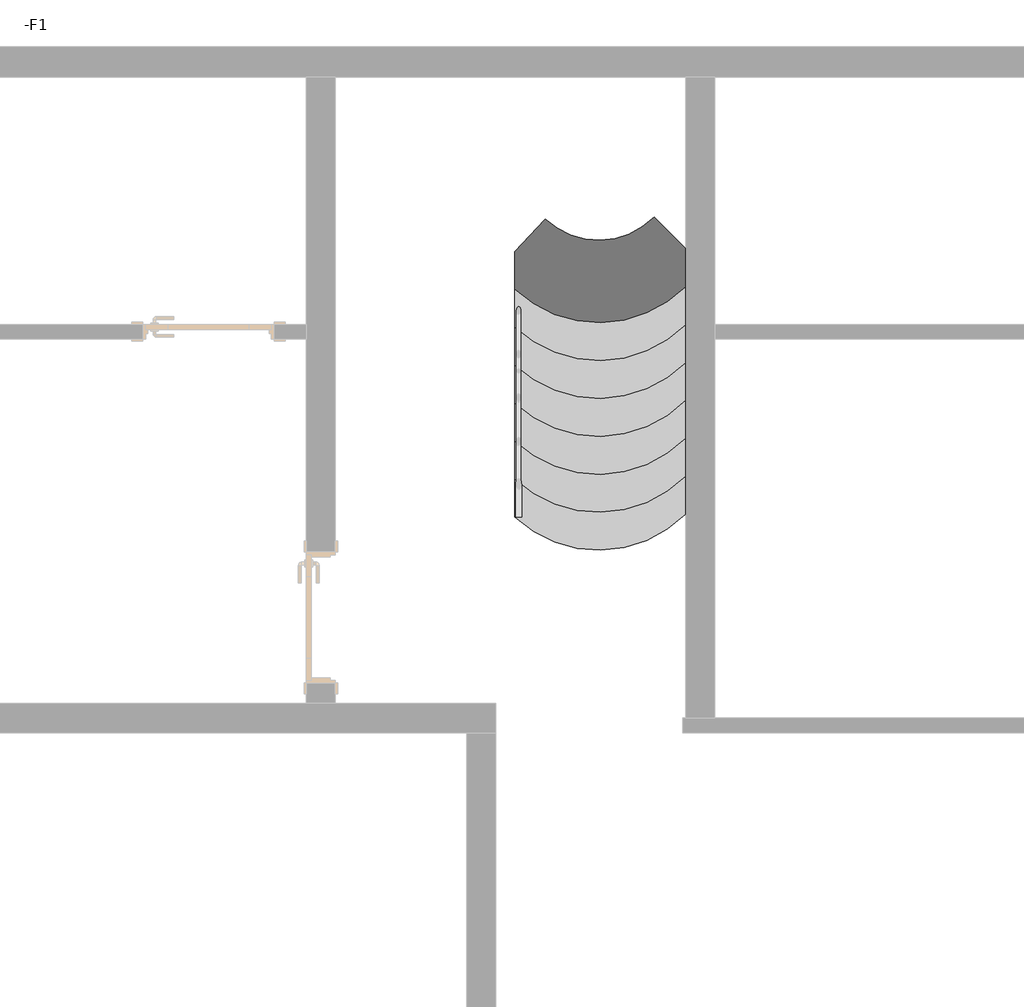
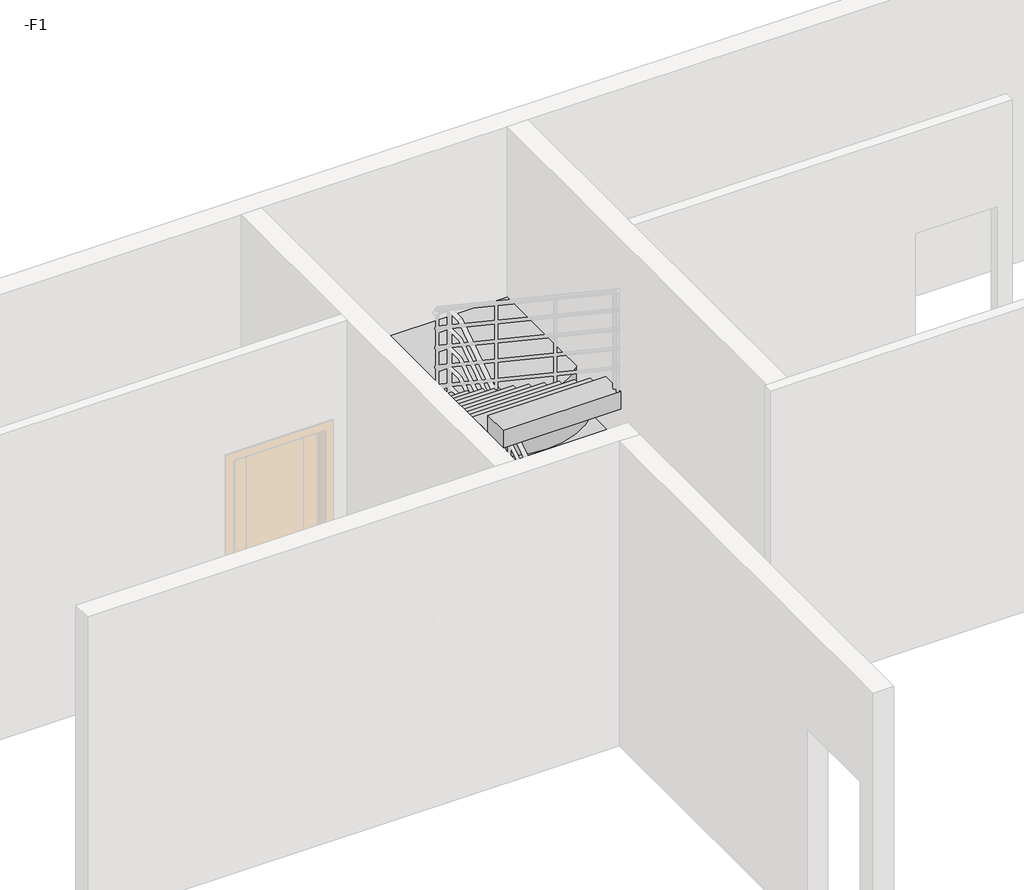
# One storey, part 3 of 3: 1 stair flight.
"""IFC4 building model written with IfcOpenShell, lengths in millimetres."""

from ifc_helpers import new_model, si_unit, frame, origin, place, context, project, spatial, polyline, circle_curve, ellipse_curve, element, save
from ifc_brep_helpers import plane_surface, cylinder_surface, revolved_surface, advanced_brep

model = new_model("IFC4")

# Units and contexts
model_context = context("Model", 3, world=origin())
ifc_project = project(units=[si_unit("LENGTHUNIT", "METRE", prefix="MILLI")], contexts=[model_context])

# Site, building, storey
site = spatial("IfcSite", under=ifc_project)
building = spatial("IfcBuilding", under=site)
storey = spatial("IfcBuildingStorey", under=building, Name="-F1", Elevation=-3300.0)

# Stair flight
placement = place(None, origin())
element("IfcStairFlight", 1, ObjectType="150mm 结构深度", at=placement, inside=storey, context=model_context, shape_type="AdvancedBrep", body=[
    advanced_brep(
    [(-11225.9782681, -2391.0286905, -3126.3157895), (-11225.9782681, -2651.0286905, -3126.3157895), (-10055.9782681, -2631.5689641, -3126.3157895), (-10055.9782681, -2371.5689641, -3126.3157895), (-11225.9782681, -2391.0286905, -3300.0), (-11225.9782681, -2651.0286905, -3300.0), (-10055.9782681, -2631.5689641, -3300.0), (-10055.9782681, -2371.5689641, -3300.0), (-11225.9782681, -2131.0286905, -2952.6315789), (-11225.9782681, -2391.0286905, -2952.6315789), (-10055.9782681, -2371.5689641, -2952.6315789), (-10055.9782681, -2111.5689641, -2952.6315789), (-11225.9782681, -2131.0286905, -3133.0292074), (-11225.9782681, -2380.9789073, -3300.0), (-10055.9782681, -2361.519181, -3300.0), (-10055.9782681, -2111.5689641, -3133.0292074), (-11225.9782681, -1871.0286905, -2778.9473684), (-11225.9782681, -2131.0286905, -2778.9473684), (-10055.9782681, -2111.5689641, -2778.9473684), (-10055.9782681, -1851.5689641, -2778.9473684), (-11225.9782681, -1871.0286905, -2959.3449968), (-10055.9782681, -1851.5689641, -2959.3449968), (-11225.9782681, -1611.0286905, -2605.2631579), (-11225.9782681, -1871.0286905, -2605.2631579), (-10055.9782681, -1851.5689641, -2605.2631579), (-10055.9782681, -1591.5689641, -2605.2631579), (-11225.9782681, -1611.0286905, -2785.6607863), (-10055.9782681, -1591.5689641, -2785.6607863), (-11225.9782681, -1351.0286905, -2431.5789474), (-11225.9782681, -1611.0286905, -2431.5789474), (-10055.9782681, -1591.5689641, -2431.5789474), (-10055.9782681, -1331.5689641, -2431.5789474), (-11225.9782681, -1351.0286905, -2611.9765758), (-10055.9782681, -1331.5689641, -2611.9765758), (-11225.9782681, -1091.0286905, -2257.8947368), (-11225.9782681, -1351.0286905, -2257.8947368), (-10055.9782681, -1331.5689641, -2257.8947368), (-10055.9782681, -1071.5689641, -2257.8947368), (-11225.9782681, -1091.0286905, -2438.2923652), (-10055.9782681, -1071.5689641, -2438.2923652), (-11225.9782681, -831.0286905, -2084.2105263), (-11225.9782681, -1091.0286905, -2084.2105263), (-10055.9782681, -1071.5689641, -2084.2105263), (-10055.9782681, -811.5689641, -2084.2105263), (-11225.9782681, -831.0286905, -2264.6081547), (-10055.9782681, -811.5689641, -2264.6081547), (-11285.9782681, -831.0286905, -1910.5263158), (-11285.9782681, -651.0286905, -1910.5263158), (-11225.9782681, -651.0286905, -1910.5263158), (-11225.9782681, -831.0286905, -1910.5263158), (-10055.9782681, -811.5689641, -1910.5263158), (-10055.9782681, 363.9713095, -1910.5263158), (-12435.9782681, 363.9713095, -1910.5263158), (-12435.9782681, -831.0286905, -1910.5263158), (-11285.9782681, -831.0286905, -2060.5263158), (-11285.9782681, -651.0286905, -2060.5263158), (-11225.9782681, -651.0286905, -2060.5263158), (-11225.9782681, -831.0286905, -2060.5263158), (-10055.9782681, -811.5689641, -2060.5263158), (-10055.9782681, 363.9713095, -2060.5263158), (-12435.9782681, 363.9713095, -2060.5263158), (-12435.9782681, -831.0286905, -2060.5263158), (-11285.9782681, -831.0286905, -1736.8421053), (-12435.9782681, -831.0286905, -1736.8421053), (-12435.9782681, -876.5214946, -1736.8421053), (-12435.9782681, -1091.0286905, -1736.8421053), (-11285.9782681, -1091.0286905, -1736.8421053), (-11285.9782681, -876.5214946, -1736.8421053), (-11285.9782681, -1091.0286905, -1917.2320352), (-11285.9782681, -876.5214946, -2060.5263158), (-12435.9782681, -876.5214946, -2060.5263158), (-12435.9782681, -1091.0286905, -1917.2320352), (-11285.9782681, -1351.0286905, -1563.1578947), (-11285.9782681, -1091.0286905, -1563.1578947), (-12435.9782681, -1091.0286905, -1563.1578947), (-12435.9782681, -1351.0286905, -1563.1578947), (-11285.9782681, -1351.0286905, -1743.5478246), (-12435.9782681, -1351.0286905, -1743.5478246), (-11285.9782681, -1611.0286905, -1389.4736842), (-11285.9782681, -1351.0286905, -1389.4736842), (-12435.9782681, -1351.0286905, -1389.4736842), (-12435.9782681, -1611.0286905, -1389.4736842), (-11285.9782681, -1611.0286905, -1569.8636141), (-12435.9782681, -1611.0286905, -1569.8636141), (-11285.9782681, -1871.0286905, -1215.7894737), (-11285.9782681, -1611.0286905, -1215.7894737), (-12435.9782681, -1611.0286905, -1215.7894737), (-12435.9782681, -1871.0286905, -1215.7894737), (-11285.9782681, -1871.0286905, -1396.1794036), (-12435.9782681, -1871.0286905, -1396.1794036), (-11285.9782681, -2131.0286905, -1042.1052632), (-11285.9782681, -1871.0286905, -1042.1052632), (-12435.9782681, -1871.0286905, -1042.1052632), (-12435.9782681, -2131.0286905, -1042.1052632), (-11285.9782681, -2131.0286905, -1222.4951931), (-12435.9782681, -2131.0286905, -1222.4951931), (-11285.9782681, -2391.0286905, -868.4210526), (-11285.9782681, -2131.0286905, -868.4210526), (-12435.9782681, -2131.0286905, -868.4210526), (-12435.9782681, -2391.0286905, -868.4210526), (-11285.9782681, -2391.0286905, -1048.8109825), (-12435.9782681, -2391.0286905, -1048.8109825), (-11285.9782681, -2651.0286905, -694.7368421), (-11285.9782681, -2391.0286905, -694.7368421), (-12435.9782681, -2391.0286905, -694.7368421), (-12435.9782681, -2651.0286905, -694.7368421), (-11285.9782681, -2651.0286905, -875.126772), (-12435.9782681, -2651.0286905, -875.126772), (-11285.9782681, -2911.0286905, -521.0526316), (-11285.9782681, -2651.0286905, -521.0526316), (-12435.9782681, -2651.0286905, -521.0526316), (-12435.9782681, -2911.0286905, -521.0526316), (-11285.9782681, -2911.0286905, -701.4425615), (-12435.9782681, -2911.0286905, -701.4425615), (-11285.9782681, -3171.0286905, -347.3684211), (-11285.9782681, -2911.0286905, -347.3684211), (-12435.9782681, -2911.0286905, -347.3684211), (-12435.9782681, -3171.0286905, -347.3684211), (-11285.9782681, -3171.0286905, -527.7583509), (-12435.9782681, -3171.0286905, -527.7583509), (-11285.9782681, -3431.0286905, -173.6842105), (-11285.9782681, -3171.0286905, -173.6842105), (-12435.9782681, -3171.0286905, -173.6842105), (-12435.9782681, -3431.0286905, -173.6842105), (-11285.9782681, -3431.0286905, -354.0741404), (-12435.9782681, -3431.0286905, -354.0741404), (-11285.9782681, -3691.0286905, 0.0), (-11285.9782681, -3431.0286905, 0.0), (-12435.9782681, -3431.0286905, 0.0), (-12435.9782681, -3691.0286905, 0.0), (-11285.9782681, -3691.0286905, -180.3899299), (-12435.9782681, -3691.0286905, -180.3899299), (-11016.6315402, -608.5853705, -2118.3383842), (-10272.6066214, -596.2105659, -2118.3383842), (-11016.6315402, -608.5853705, -2060.5263158), (-10272.6066214, -596.2105659, -2060.5263158)],
    [
        (0, 1),
        (1, 2, circle_curve(frame((-10650.9782681, -2040.0570728, -3126.3157895), z_axis=(0.0, 0.0, 1.0), x_axis=(1.0, 0.0, 0.0)), 838.9942297)),
        (2, 3),
        (3, 0, circle_curve(frame((-10650.9782681, -1780.0570728, -3126.3157895), z_axis=(0.0, 0.0, -1.0), x_axis=(1.0, 0.0, 0.0)), 838.9942297)),
        (0, 4),
        (4, 5),
        (5, 1),
        (5, 6, circle_curve(frame((-10650.9782681, -2040.0570728, -3300.0), z_axis=(0.0, 0.0, 1.0), x_axis=(1.0, 0.0, 0.0)), 838.9942297)),
        (6, 2),
        (6, 7),
        (7, 3),
        (8, 9),
        (9, 10, circle_curve(frame((-10650.9782681, -1780.0570728, -2952.6315789), z_axis=(0.0, 0.0, 1.0), x_axis=(1.0, 0.0, 0.0)), 838.9942297)),
        (10, 11),
        (11, 8, circle_curve(frame((-10650.9782681, -1520.0570728, -2952.6315789), z_axis=(0.0, 0.0, -1.0), x_axis=(1.0, 0.0, 0.0)), 838.9942297)),
        (0, 9),
        (8, 12),
        (12, 13),
        (13, 4),
        (3, 10),
        (7, 14),
        (14, 15),
        (15, 11),
        (16, 17),
        (17, 18, circle_curve(frame((-10650.9782681, -1520.0570728, -2778.9473684), z_axis=(0.0, 0.0, 1.0), x_axis=(1.0, 0.0, 0.0)), 838.9942297)),
        (18, 19),
        (19, 16, circle_curve(frame((-10650.9782681, -1260.0570728, -2778.9473684), z_axis=(0.0, 0.0, -1.0), x_axis=(1.0, 0.0, 0.0)), 838.9942297)),
        (16, 20),
        (20, 12),
        (8, 17),
        (11, 18),
        (15, 21),
        (21, 19),
        (22, 23),
        (23, 24, circle_curve(frame((-10650.9782681, -1260.0570728, -2605.2631579), z_axis=(0.0, 0.0, 1.0), x_axis=(1.0, 0.0, 0.0)), 838.9942297)),
        (24, 25),
        (25, 22, circle_curve(frame((-10650.9782681, -1000.0570728, -2605.2631579), z_axis=(0.0, 0.0, -1.0), x_axis=(1.0, 0.0, 0.0)), 838.9942297)),
        (22, 26),
        (26, 20),
        (16, 23),
        (19, 24),
        (21, 27),
        (27, 25),
        (28, 29),
        (29, 30, circle_curve(frame((-10650.9782681, -1000.0570728, -2431.5789474), z_axis=(0.0, 0.0, 1.0), x_axis=(1.0, 0.0, 0.0)), 838.9942297)),
        (30, 31),
        (31, 28, circle_curve(frame((-10650.9782681, -740.0570728, -2431.5789474), z_axis=(0.0, 0.0, -1.0), x_axis=(1.0, 0.0, 0.0)), 838.9942297)),
        (28, 32),
        (32, 26),
        (22, 29),
        (25, 30),
        (27, 33),
        (33, 31),
        (34, 35),
        (35, 36, circle_curve(frame((-10650.9782681, -740.0570728, -2257.8947368), z_axis=(0.0, 0.0, 1.0), x_axis=(1.0, 0.0, 0.0)), 838.9942297)),
        (36, 37),
        (37, 34, circle_curve(frame((-10650.9782681, -480.0570728, -2257.8947368), z_axis=(0.0, 0.0, -1.0), x_axis=(1.0, 0.0, 0.0)), 838.9942297)),
        (34, 38),
        (38, 32),
        (28, 35),
        (31, 36),
        (33, 39),
        (39, 37),
        (40, 41),
        (41, 42, circle_curve(frame((-10650.9782681, -480.0570728, -2084.2105263), z_axis=(0.0, 0.0, 1.0), x_axis=(1.0, 0.0, 0.0)), 838.9942297)),
        (42, 43),
        (43, 40, circle_curve(frame((-10650.9782681, -220.0570728, -2084.2105263), z_axis=(0.0, 0.0, -1.0), x_axis=(1.0, 0.0, 0.0)), 838.9942297)),
        (40, 44),
        (44, 38),
        (34, 41),
        (37, 42),
        (39, 45),
        (45, 43),
        (46, 47),
        (47, 48),
        (48, 49),
        (49, 50, circle_curve(frame((-10650.9782681, -220.0570728, -1910.5263158), z_axis=(0.0, 0.0, 1.0), x_axis=(1.0, 0.0, 0.0)), 838.9942297)),
        (50, 51),
        (51, 52),
        (52, 53),
        (53, 46),
        (46, 54),
        (54, 55),
        (55, 47),
        (55, 56),
        (56, 48),
        (56, 57),
        (57, 49),
        (43, 58),
        (58, 50),
        (57, 40),
        (58, 59),
        (59, 51),
        (59, 60),
        (60, 52),
        (60, 61),
        (61, 53),
        (62, 63),
        (63, 64),
        (64, 65),
        (65, 66),
        (66, 67),
        (67, 62),
        (46, 62),
        (66, 68),
        (68, 69),
        (69, 54),
        (53, 63),
        (61, 70),
        (70, 71),
        (71, 65),
        (72, 73),
        (73, 74),
        (74, 75),
        (75, 72),
        (72, 76),
        (76, 68),
        (66, 73),
        (65, 74),
        (71, 77),
        (77, 75),
        (78, 79),
        (79, 80),
        (80, 81),
        (81, 78),
        (78, 82),
        (82, 76),
        (72, 79),
        (75, 80),
        (77, 83),
        (83, 81),
        (84, 85),
        (85, 86),
        (86, 87),
        (87, 84),
        (84, 88),
        (88, 82),
        (78, 85),
        (81, 86),
        (83, 89),
        (89, 87),
        (90, 91),
        (91, 92),
        (92, 93),
        (93, 90),
        (90, 94),
        (94, 88),
        (84, 91),
        (87, 92),
        (89, 95),
        (95, 93),
        (96, 97),
        (97, 98),
        (98, 99),
        (99, 96),
        (96, 100),
        (100, 94),
        (90, 97),
        (93, 98),
        (95, 101),
        (101, 99),
        (102, 103),
        (103, 104),
        (104, 105),
        (105, 102),
        (102, 106),
        (106, 100),
        (96, 103),
        (99, 104),
        (101, 107),
        (107, 105),
        (108, 109),
        (109, 110),
        (110, 111),
        (111, 108),
        (108, 112),
        (112, 106),
        (102, 109),
        (105, 110),
        (107, 113),
        (113, 111),
        (114, 115),
        (115, 116),
        (116, 117),
        (117, 114),
        (114, 118),
        (118, 112),
        (108, 115),
        (111, 116),
        (113, 119),
        (119, 117),
        (120, 121),
        (121, 122),
        (122, 123),
        (123, 120),
        (120, 124),
        (124, 118),
        (114, 121),
        (117, 122),
        (119, 125),
        (125, 123),
        (126, 127),
        (127, 128),
        (128, 129),
        (129, 126),
        (126, 130),
        (130, 124),
        (120, 127),
        (123, 128),
        (125, 131),
        (131, 129),
        (131, 130),
        (13, 14),
        (132, 133, ellipse_curve(frame((-10650.9782681, -220.0570728, -1862.8578199), z_axis=(0.009238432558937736, -0.5554531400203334, 0.8314965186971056), x_axis=(-0.01382774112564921, 0.8313815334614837, 0.5555299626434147)), 641.6528951, 533.5321485)),
        (133, 45),
        (44, 132),
        (132, 134),
        (134, 135, circle_curve(frame((-10650.9782681, -220.0570728, -2060.5263158), z_axis=(0.0, 0.0, 1.0), x_axis=(1.0, 0.0, 0.0)), 533.5321485)),
        (135, 133),
        (135, 58),
        (57, 134),
        (69, 70),
    ],
    [
        plane_surface(frame((-11225.9782681, -651.0286905, -3126.3157895), z_axis=(0.0, 0.0, 1.0), x_axis=(0.0, -1.0, 0.0))),
        plane_surface(frame((-11225.9782681, -2391.0286905, -3126.3157895), z_axis=(-1.0, 0.0, 0.0), x_axis=(0.0, 0.0, -1.0))),
        cylinder_surface(frame((-10650.9782681, -2040.0570728, -3994.7368421), z_axis=(0.0, 0.0, 1.0), x_axis=(1.0, 0.0, 0.0)), 838.9942297),
        plane_surface(frame((-10055.9782681, -2631.5689641, -3126.3157895), z_axis=(1.0, 0.0, 0.0), x_axis=(0.0, 0.0, -1.0))),
        plane_surface(frame((-11225.9782681, -391.0286905, -2952.6315789), z_axis=(0.0, 0.0, 1.0), x_axis=(0.0, -1.0, 0.0))),
        plane_surface(frame((-11225.9782681, -2131.0286905, -2952.6315789), z_axis=(-1.0, 0.0, 0.0), x_axis=(0.0, 0.0, -1.0))),
        cylinder_surface(frame((-10650.9782681, -1780.0570728, -3821.0526316), z_axis=(0.0, 0.0, 1.0), x_axis=(1.0, 0.0, 0.0)), 838.9942297),
        plane_surface(frame((-10055.9782681, -2371.5689641, -2952.6315789), z_axis=(1.0, 0.0, 0.0), x_axis=(0.0, 0.0, -1.0))),
        plane_surface(frame((-11225.9782681, -131.0286905, -2778.9473684), z_axis=(0.0, 0.0, 1.0), x_axis=(0.0, -1.0, 0.0))),
        plane_surface(frame((-11225.9782681, -1871.0286905, -2778.9473684), z_axis=(-1.0, 0.0, 0.0), x_axis=(0.0, 0.0, -1.0))),
        cylinder_surface(frame((-10650.9782681, -1520.0570728, -3647.3684211), z_axis=(0.0, 0.0, 1.0), x_axis=(1.0, 0.0, 0.0)), 838.9942297),
        plane_surface(frame((-10055.9782681, -2111.5689641, -2778.9473684), z_axis=(1.0, 0.0, 0.0), x_axis=(0.0, 0.0, -1.0))),
        plane_surface(frame((-11225.9782681, 128.9713095, -2605.2631579), z_axis=(0.0, 0.0, 1.0), x_axis=(0.0, -1.0, 0.0))),
        plane_surface(frame((-11225.9782681, -1611.0286905, -2605.2631579), z_axis=(-1.0, 0.0, 0.0), x_axis=(0.0, 0.0, -1.0))),
        cylinder_surface(frame((-10650.9782681, -1260.0570728, -3473.6842105), z_axis=(0.0, 0.0, 1.0), x_axis=(1.0, 0.0, 0.0)), 838.9942297),
        plane_surface(frame((-10055.9782681, -1851.5689641, -2605.2631579), z_axis=(1.0, 0.0, 0.0), x_axis=(0.0, 0.0, -1.0))),
        plane_surface(frame((-11225.9782681, 388.9713095, -2431.5789474), z_axis=(0.0, 0.0, 1.0), x_axis=(0.0, -1.0, 0.0))),
        plane_surface(frame((-11225.9782681, -1351.0286905, -2431.5789474), z_axis=(-1.0, 0.0, 0.0), x_axis=(0.0, 0.0, -1.0))),
        cylinder_surface(frame((-10650.9782681, -1000.0570728, -3300.0), z_axis=(0.0, 0.0, 1.0), x_axis=(1.0, 0.0, 0.0)), 838.9942297),
        plane_surface(frame((-10055.9782681, -1591.5689641, -2431.5789474), z_axis=(1.0, 0.0, 0.0), x_axis=(0.0, 0.0, -1.0))),
        plane_surface(frame((-11225.9782681, 648.9713095, -2257.8947368), z_axis=(0.0, 0.0, 1.0), x_axis=(0.0, -1.0, 0.0))),
        plane_surface(frame((-11225.9782681, -1091.0286905, -2257.8947368), z_axis=(-1.0, 0.0, 0.0), x_axis=(0.0, 0.0, -1.0))),
        cylinder_surface(frame((-10650.9782681, -740.0570728, -3126.3157895), z_axis=(0.0, 0.0, 1.0), x_axis=(1.0, 0.0, 0.0)), 838.9942297),
        plane_surface(frame((-10055.9782681, -1331.5689641, -2257.8947368), z_axis=(1.0, 0.0, 0.0), x_axis=(0.0, 0.0, -1.0))),
        plane_surface(frame((-11225.9782681, 908.9713095, -2084.2105263), z_axis=(0.0, 0.0, 1.0), x_axis=(0.0, -1.0, 0.0))),
        plane_surface(frame((-11225.9782681, -831.0286905, -2084.2105263), z_axis=(-1.0, 0.0, 0.0), x_axis=(0.0, 0.0, -1.0))),
        cylinder_surface(frame((-10650.9782681, -480.0570728, -2952.6315789), z_axis=(0.0, 0.0, 1.0), x_axis=(1.0, 0.0, 0.0)), 838.9942297),
        plane_surface(frame((-10055.9782681, -1071.5689641, -2084.2105263), z_axis=(1.0, 0.0, 0.0), x_axis=(0.0, 0.0, -1.0))),
        plane_surface(frame((-11285.9782681, -3691.0286905, -1910.5263158), z_axis=(0.0, 0.0, 1.0), x_axis=(0.0, 1.0, 0.0))),
        plane_surface(frame((-11285.9782681, -831.0286905, -1910.5263158), z_axis=(1.0, 0.0, 0.0), x_axis=(0.0, 0.0, -1.0))),
        plane_surface(frame((-11285.9782681, -651.0286905, -1910.5263158), z_axis=(0.0, -1.0, 0.0), x_axis=(0.0, 0.0, -1.0))),
        plane_surface(frame((-11225.9782681, -651.0286905, -1910.5263158), z_axis=(-1.0, 0.0, 0.0), x_axis=(0.0, 0.0, -1.0))),
        cylinder_surface(frame((-10650.9782681, -220.0570728, -2778.9473684), z_axis=(0.0, 0.0, 1.0), x_axis=(1.0, 0.0, 0.0)), 838.9942297),
        plane_surface(frame((-10055.9782681, -811.5689641, -1910.5263158), z_axis=(1.0, 0.0, 0.0), x_axis=(0.0, 0.0, -1.0))),
        plane_surface(frame((-10055.9782681, 363.9713095, -1910.5263158), z_axis=(0.0, 1.0, 0.0), x_axis=(0.0, 0.0, -1.0))),
        plane_surface(frame((-12435.9782681, 363.9713095, -1910.5263158), z_axis=(-1.0, 0.0, 0.0), x_axis=(0.0, 0.0, -1.0))),
        plane_surface(frame((-11285.9782681, -3691.0286905, -1736.8421053), z_axis=(0.0, 0.0, 1.0), x_axis=(0.0, 1.0, 0.0))),
        plane_surface(frame((-11285.9782681, -1091.0286905, -1736.8421053), z_axis=(1.0, 0.0, 0.0), x_axis=(0.0, 0.0, -1.0))),
        plane_surface(frame((-11285.9782681, -831.0286905, -1736.8421053), z_axis=(0.0, 1.0, 0.0), x_axis=(0.0, 0.0, -1.0))),
        plane_surface(frame((-12435.9782681, -831.0286905, -1736.8421053), z_axis=(-1.0, 0.0, 0.0), x_axis=(0.0, 0.0, -1.0))),
        plane_surface(frame((-11285.9782681, -3951.0286905, -1563.1578947), z_axis=(0.0, 0.0, 1.0), x_axis=(0.0, 1.0, 0.0))),
        plane_surface(frame((-11285.9782681, -1351.0286905, -1563.1578947), z_axis=(1.0, 0.0, 0.0), x_axis=(0.0, 0.0, -1.0))),
        plane_surface(frame((-11285.9782681, -1091.0286905, -1563.1578947), z_axis=(0.0, 1.0, 0.0), x_axis=(0.0, 0.0, -1.0))),
        plane_surface(frame((-12435.9782681, -1091.0286905, -1563.1578947), z_axis=(-1.0, 0.0, 0.0), x_axis=(0.0, 0.0, -1.0))),
        plane_surface(frame((-11285.9782681, -4211.0286905, -1389.4736842), z_axis=(0.0, 0.0, 1.0), x_axis=(0.0, 1.0, 0.0))),
        plane_surface(frame((-11285.9782681, -1611.0286905, -1389.4736842), z_axis=(1.0, 0.0, 0.0), x_axis=(0.0, 0.0, -1.0))),
        plane_surface(frame((-11285.9782681, -1351.0286905, -1389.4736842), z_axis=(0.0, 1.0, 0.0), x_axis=(0.0, 0.0, -1.0))),
        plane_surface(frame((-12435.9782681, -1351.0286905, -1389.4736842), z_axis=(-1.0, 0.0, 0.0), x_axis=(0.0, 0.0, -1.0))),
        plane_surface(frame((-11285.9782681, -4471.0286905, -1215.7894737), z_axis=(0.0, 0.0, 1.0), x_axis=(0.0, 1.0, 0.0))),
        plane_surface(frame((-11285.9782681, -1871.0286905, -1215.7894737), z_axis=(1.0, 0.0, 0.0), x_axis=(0.0, 0.0, -1.0))),
        plane_surface(frame((-11285.9782681, -1611.0286905, -1215.7894737), z_axis=(0.0, 1.0, 0.0), x_axis=(0.0, 0.0, -1.0))),
        plane_surface(frame((-12435.9782681, -1611.0286905, -1215.7894737), z_axis=(-1.0, 0.0, 0.0), x_axis=(0.0, 0.0, -1.0))),
        plane_surface(frame((-11285.9782681, -4731.0286905, -1042.1052632), z_axis=(0.0, 0.0, 1.0), x_axis=(0.0, 1.0, 0.0))),
        plane_surface(frame((-11285.9782681, -2131.0286905, -1042.1052632), z_axis=(1.0, 0.0, 0.0), x_axis=(0.0, 0.0, -1.0))),
        plane_surface(frame((-11285.9782681, -1871.0286905, -1042.1052632), z_axis=(0.0, 1.0, 0.0), x_axis=(0.0, 0.0, -1.0))),
        plane_surface(frame((-12435.9782681, -1871.0286905, -1042.1052632), z_axis=(-1.0, 0.0, 0.0), x_axis=(0.0, 0.0, -1.0))),
        plane_surface(frame((-11285.9782681, -4991.0286905, -868.4210526), z_axis=(0.0, 0.0, 1.0), x_axis=(0.0, 1.0, 0.0))),
        plane_surface(frame((-11285.9782681, -2391.0286905, -868.4210526), z_axis=(1.0, 0.0, 0.0), x_axis=(0.0, 0.0, -1.0))),
        plane_surface(frame((-11285.9782681, -2131.0286905, -868.4210526), z_axis=(0.0, 1.0, 0.0), x_axis=(0.0, 0.0, -1.0))),
        plane_surface(frame((-12435.9782681, -2131.0286905, -868.4210526), z_axis=(-1.0, 0.0, 0.0), x_axis=(0.0, 0.0, -1.0))),
        plane_surface(frame((-11285.9782681, -5251.0286905, -694.7368421), z_axis=(0.0, 0.0, 1.0), x_axis=(0.0, 1.0, 0.0))),
        plane_surface(frame((-11285.9782681, -2651.0286905, -694.7368421), z_axis=(1.0, 0.0, 0.0), x_axis=(0.0, 0.0, -1.0))),
        plane_surface(frame((-11285.9782681, -2391.0286905, -694.7368421), z_axis=(0.0, 1.0, 0.0), x_axis=(0.0, 0.0, -1.0))),
        plane_surface(frame((-12435.9782681, -2391.0286905, -694.7368421), z_axis=(-1.0, 0.0, 0.0), x_axis=(0.0, 0.0, -1.0))),
        plane_surface(frame((-11285.9782681, -5511.0286905, -521.0526316), z_axis=(0.0, 0.0, 1.0), x_axis=(0.0, 1.0, 0.0))),
        plane_surface(frame((-11285.9782681, -2911.0286905, -521.0526316), z_axis=(1.0, 0.0, 0.0), x_axis=(0.0, 0.0, -1.0))),
        plane_surface(frame((-11285.9782681, -2651.0286905, -521.0526316), z_axis=(0.0, 1.0, 0.0), x_axis=(0.0, 0.0, -1.0))),
        plane_surface(frame((-12435.9782681, -2651.0286905, -521.0526316), z_axis=(-1.0, 0.0, 0.0), x_axis=(0.0, 0.0, -1.0))),
        plane_surface(frame((-11285.9782681, -5771.0286905, -347.3684211), z_axis=(0.0, 0.0, 1.0), x_axis=(0.0, 1.0, 0.0))),
        plane_surface(frame((-11285.9782681, -3171.0286905, -347.3684211), z_axis=(1.0, 0.0, 0.0), x_axis=(0.0, 0.0, -1.0))),
        plane_surface(frame((-11285.9782681, -2911.0286905, -347.3684211), z_axis=(0.0, 1.0, 0.0), x_axis=(0.0, 0.0, -1.0))),
        plane_surface(frame((-12435.9782681, -2911.0286905, -347.3684211), z_axis=(-1.0, 0.0, 0.0), x_axis=(0.0, 0.0, -1.0))),
        plane_surface(frame((-11285.9782681, -6031.0286905, -173.6842105), z_axis=(0.0, 0.0, 1.0), x_axis=(0.0, 1.0, 0.0))),
        plane_surface(frame((-11285.9782681, -3431.0286905, -173.6842105), z_axis=(1.0, 0.0, 0.0), x_axis=(0.0, 0.0, -1.0))),
        plane_surface(frame((-11285.9782681, -3171.0286905, -173.6842105), z_axis=(0.0, 1.0, 0.0), x_axis=(0.0, 0.0, -1.0))),
        plane_surface(frame((-12435.9782681, -3171.0286905, -173.6842105), z_axis=(-1.0, 0.0, 0.0), x_axis=(0.0, 0.0, -1.0))),
        plane_surface(frame((-11285.9782681, -6291.0286905, 0.0), z_axis=(0.0, 0.0, 1.0), x_axis=(0.0, 1.0, 0.0))),
        plane_surface(frame((-11285.9782681, -3691.0286905, 0.0), z_axis=(1.0, 0.0, 0.0), x_axis=(0.0, 0.0, -1.0))),
        plane_surface(frame((-11285.9782681, -3431.0286905, 0.0), z_axis=(0.0, 1.0, 0.0), x_axis=(0.0, 0.0, -1.0))),
        plane_surface(frame((-12435.9782681, -3431.0286905, 0.0), z_axis=(-1.0, 0.0, 0.0), x_axis=(0.0, 0.0, -1.0))),
        plane_surface(frame((-12435.9782681, -3691.0286905, 0.0), z_axis=(0.0, -1.0, 0.0), x_axis=(0.0, 0.0, -1.0))),
        plane_surface(frame((0.0, 0.0, -3300.0), z_axis=(0.0, 0.0, -1.0), x_axis=(1.0, 0.0, 0.0))),
        plane_surface(frame((-10640.9782681, -2641.2988273, -3480.3976284), z_axis=(-0.009238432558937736, 0.5554531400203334, -0.8314965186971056), x_axis=(0.9999573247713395, 0.005131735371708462, -0.0076820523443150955))),
        revolved_surface(polyline([(-10117.4461196, -220.0570728, -1506.4004110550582), (-10117.4461196, -220.0570728, -2219.315228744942)]), (-10650.9782681, -220.0570728, -3300.0), (0.0, 0.0, 1.0)),
        plane_surface(frame((-10272.6066214, -596.2105659, -2118.3383842), z_axis=(0.705024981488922, 0.709182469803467, 0.0), x_axis=(0.0, 0.0, 1.0))),
        plane_surface(frame((-11225.9782681, -831.0286905, -2264.6081547), z_axis=(-0.7282190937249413, 0.6853444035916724, 0.0), x_axis=(0.0, 0.0, 1.0))),
        plane_surface(frame((-11285.9782681, -3691.0286905, -2060.5263158), z_axis=(0.0, 0.0, -1.0), x_axis=(0.0, -1.0, 0.0))),
        plane_surface(frame((-11860.9782681, -831.0286905, -2090.9162457), z_axis=(0.0, -0.5554768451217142, -0.8315320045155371), x_axis=(1.0, 0.0, 0.0))),
    ],
    [
        (0, [[1, 2, 3, 4]]),
        (1, [[-1, 5, 6, 7]]),
        (2, [[-2, -7, 8, 9]]),
        (3, [[-3, -9, 10, 11]]),
        (4, [[12, 13, 14, 15]]),
        (5, [[-5, 16, -12, 17, 18, 19]]),
        (6, [[-4, 20, -13, -16]]),
        (7, [[-11, 21, 22, 23, -14, -20]]),
        (8, [[24, 25, 26, 27]]),
        (9, [[-24, 28, 29, -17, 30]]),
        (10, [[-15, 31, -25, -30]]),
        (11, [[-26, -31, -23, 32, 33]]),
        (12, [[34, 35, 36, 37]]),
        (13, [[-34, 38, 39, -28, 40]]),
        (14, [[-27, 41, -35, -40]]),
        (15, [[-36, -41, -33, 42, 43]]),
        (16, [[44, 45, 46, 47]]),
        (17, [[-44, 48, 49, -38, 50]]),
        (18, [[-37, 51, -45, -50]]),
        (19, [[-46, -51, -43, 52, 53]]),
        (20, [[54, 55, 56, 57]]),
        (21, [[-54, 58, 59, -48, 60]]),
        (22, [[-47, 61, -55, -60]]),
        (23, [[-56, -61, -53, 62, 63]]),
        (24, [[64, 65, 66, 67]]),
        (25, [[-64, 68, 69, -58, 70]]),
        (26, [[-57, 71, -65, -70]]),
        (27, [[-66, -71, -63, 72, 73]]),
        (28, [[74, 75, 76, 77, 78, 79, 80, 81]]),
        (29, [[-74, 82, 83, 84]]),
        (30, [[-75, -84, 85, 86]]),
        (31, [[-76, -86, 87, 88]]),
        (32, [[-67, 89, 90, -77, -88, 91]]),
        (33, [[-78, -90, 92, 93]]),
        (34, [[-79, -93, 94, 95]]),
        (35, [[-80, -95, 96, 97]]),
        (36, [[98, 99, 100, 101, 102, 103]]),
        (37, [[104, -103, -102, 105, 106, 107, -82]]),
        (38, [[-81, 108, -98, -104]]),
        (39, [[-108, -97, 109, 110, 111, -100, -99]]),
        (40, [[112, 113, 114, 115]]),
        (41, [[-112, 116, 117, -105, 118]]),
        (42, [[-101, 119, -113, -118]]),
        (43, [[-114, -119, -111, 120, 121]]),
        (44, [[122, 123, 124, 125]]),
        (45, [[-122, 126, 127, -116, 128]]),
        (46, [[-115, 129, -123, -128]]),
        (47, [[-124, -129, -121, 130, 131]]),
        (48, [[132, 133, 134, 135]]),
        (49, [[-132, 136, 137, -126, 138]]),
        (50, [[-125, 139, -133, -138]]),
        (51, [[-134, -139, -131, 140, 141]]),
        (52, [[142, 143, 144, 145]]),
        (53, [[-142, 146, 147, -136, 148]]),
        (54, [[-135, 149, -143, -148]]),
        (55, [[-144, -149, -141, 150, 151]]),
        (56, [[152, 153, 154, 155]]),
        (57, [[-152, 156, 157, -146, 158]]),
        (58, [[-145, 159, -153, -158]]),
        (59, [[-154, -159, -151, 160, 161]]),
        (60, [[162, 163, 164, 165]]),
        (61, [[-162, 166, 167, -156, 168]]),
        (62, [[-155, 169, -163, -168]]),
        (63, [[-164, -169, -161, 170, 171]]),
        (64, [[172, 173, 174, 175]]),
        (65, [[-172, 176, 177, -166, 178]]),
        (66, [[-165, 179, -173, -178]]),
        (67, [[-174, -179, -171, 180, 181]]),
        (68, [[182, 183, 184, 185]]),
        (69, [[-182, 186, 187, -176, 188]]),
        (70, [[-175, 189, -183, -188]]),
        (71, [[-184, -189, -181, 190, 191]]),
        (72, [[192, 193, 194, 195]]),
        (73, [[-192, 196, 197, -186, 198]]),
        (74, [[-185, 199, -193, -198]]),
        (75, [[-194, -199, -191, 200, 201]]),
        (76, [[202, 203, 204, 205]]),
        (77, [[-202, 206, 207, -196, 208]]),
        (78, [[-195, 209, -203, -208]]),
        (79, [[-204, -209, -201, 210, 211]]),
        (80, [[-205, -211, 212, -206]]),
        (81, [[-6, -19, 213, -21, -10, -8]]),
        (82, [[214, 215, -72, -62, -52, -42, -32, -22, -213, -18, -29, -39, -49, -59, -69, 216]]),
        (83, [[-214, 217, 218, 219]]),
        (84, [[-215, -219, 220, -89, -73]]),
        (85, [[-216, -68, -91, 221, -217]]),
        (86, [[-218, -221, -87, -85, -83, -107, 222, -109, -96, -94, -92, -220]]),
        (87, [[-222, -106, -117, -127, -137, -147, -157, -167, -177, -187, -197, -207, -212, -210, -200, -190, -180, -170, -160, -150, -140, -130, -120, -110]]),
    ],
),
])

save(model, "model.ifc")
